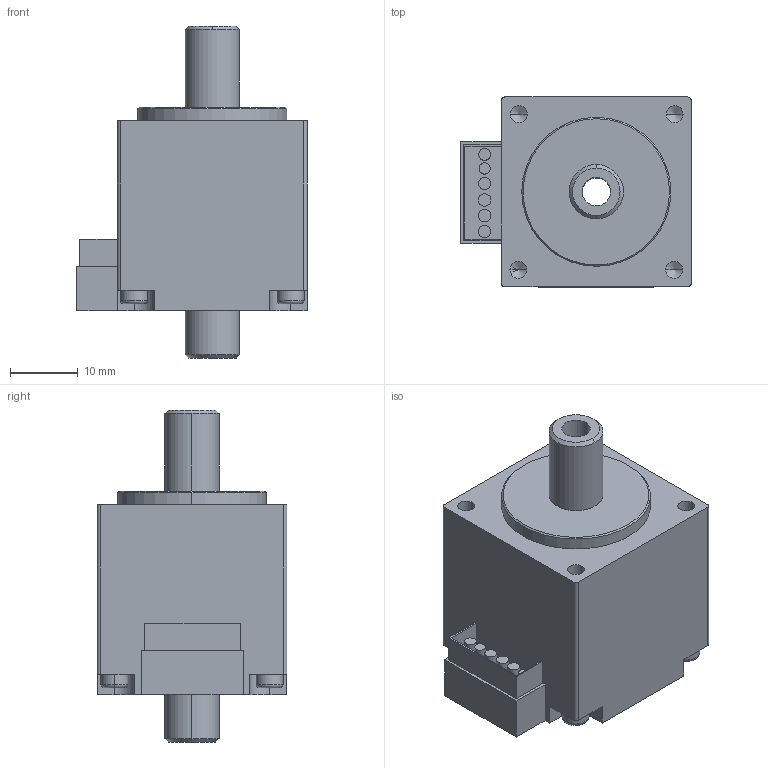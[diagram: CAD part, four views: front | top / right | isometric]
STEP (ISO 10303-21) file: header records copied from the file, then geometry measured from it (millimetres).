
FILE_DESCRIPTION (( 'STEP AP203' ), '1' );
FILE_NAME ('STCK-28D08-1428.STEP', '2019-10-12T03:52:52', ( '' ), ( '' ), 'SwSTEP 2.0', 'SolidWorks 2012', '' );
FILE_SCHEMA (( 'CONFIG_CONTROL_DESIGN' ));
Length unit declared in the file: millimetre
Products named in the file (1): STCK-28D08-1428
Bounding box: 34 x 28 x 49 mm (x, y, z)
Volume: 23029.2 mm3; surface area: 7011.2 mm2
Topology: 1 solids, 1 shells, 178 faces, 471 edges, 304 vertices
Faces by surface type: plane 93, cylinder 64, cone 14, torus 7
Entity records: 5709 total; most frequent: CARTESIAN_POINT 1212, ORIENTED_EDGE 926, DIRECTION 918, EDGE_CURVE 463, AXIS2_PLACEMENT_3D 326, VERTEX_POINT 304, LINE 266, VECTOR 266
